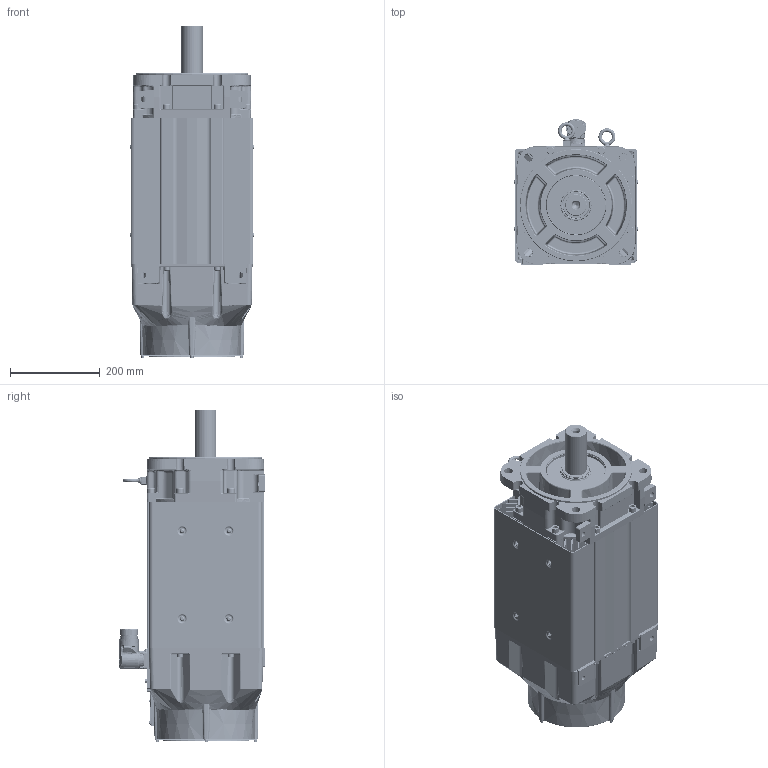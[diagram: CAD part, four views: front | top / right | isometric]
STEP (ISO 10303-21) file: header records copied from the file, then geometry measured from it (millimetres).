
FILE_DESCRIPTION((''),'2;1');
FILE_NAME('VPC-B3002A-QK14FX_ASM','2016-09-27T',('SRGaddam'),('Rockwell Automation'),'PRO/ENGINEER BY PARAMETRIC TECHNOLOGY CORPORATION, 2012480','PRO/ENGINEER BY PARAMETRIC TECHNOLOGY CORPORATION, 2012480','');
FILE_SCHEMA(('CONFIG_CONTROL_DESIGN'));
Products named in the file (37): 10001404634_AF0; 10001404629_AF6; 10001404635_ASM; 10001585735; 10001441958; 10001737030; 10001448101; 10001587021; 10001405269_AF71; 10001405240_AF78; 10001405369_ASM; 10001946256; 10001956852; 10001989665; 10001713549_ASM; M4X7X14-SOCHD-CAP-SCR; 10001978970; 10001336508; 10001587431; CH4X063; 10001299929; 10001284567; 10000172464; 10001445961; 221404-Q12; 10000231113; 10002279234; 10001443420_ASM; 10001609981; 0002-5004; 10001586887; 10001439756; 142408_740; PRT0002_740; 142408-1_740_ASM; M740_ASM; VPC-B3002A-QK14FX_ASM
Assembly tree (72 placements, depth 4):
  VPC-B3002A-QK14FX_ASM
    10001404635_ASM
      10001404634_AF0
      10001404629_AF6
    10001585735  x8
    10001441958
    10001737030
    10001448101  x2
    10001587021  x8
    10001405369_ASM
      10001405269_AF71
      10001405240_AF78
    10001443420_ASM
      10001946256
      10001713549_ASM
        10001956852
        10001989665
      M4X7X14-SOCHD-CAP-SCR  x4
      10001978970
      10001336508
      10001587431
      CH4X063  x2
      10001299929
      10001284567
      10000172464  x4
      10001445961
      221404-Q12  x5
      10000231113
      10002279234
    10001609981
    0002-5004  x2
    10001586887  x6
    10001439756
    M740_ASM
      142408-1_740_ASM
        142408_740
        PRT0002_740
      221404-Q12  x4
Bounding box: 275.91 x 324.15 x 739.85 mm (x, y, z)
Volume: 12149092.6 mm3; surface area: 2953744.7 mm2
Topology: 78 solids, 79 shells, 7214 faces, 17033 edges, 10199 vertices
Faces by surface type: cylinder 2218, plane 2035, bspline 1176, cone 1055, torus 591, sphere 134, extrusion 5
Entity records: 206528 total; most frequent: CARTESIAN_POINT 89675, ORIENTED_EDGE 25048, DIRECTION 23025, EDGE_CURVE 12524, AXIS2_PLACEMENT_3D 8847, VERTEX_POINT 7705, EDGE_LOOP 5675, VECTOR 5331
